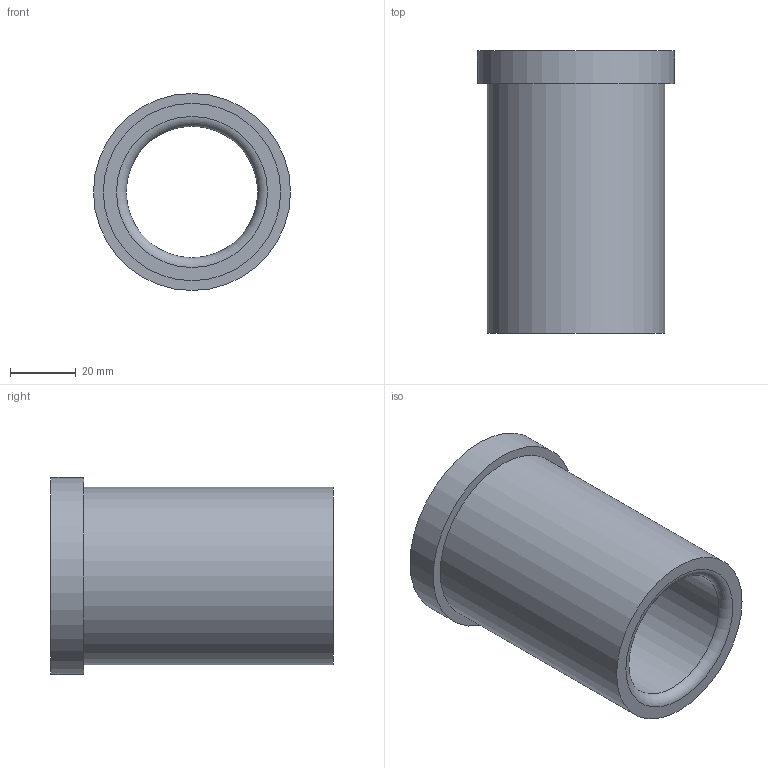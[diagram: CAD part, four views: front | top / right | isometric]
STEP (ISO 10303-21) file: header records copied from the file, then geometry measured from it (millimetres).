
FILE_DESCRIPTION(/* description */ ('STEP AP214'),/* implementation_level */ '2;1');
FILE_NAME(/* name */ '03_12_17862',/* time_stamp */ '2023-06-15T11:35:43+02:00',/* author */ ('License CC BY-ND 4.0'),/* organization */ ('CADENAS'),/* preprocessor_version */ 'ST-DEVELOPER v19.3',/* originating_system */ 'PARTsolutions',/* authorisation */ ' ');
FILE_SCHEMA (('AUTOMOTIVE_DESIGN {1 0 10303 214 3 1 1}'));
Length unit declared in the file: millimetre
Products named in the file (1): VA_Bushing_17862
Bounding box: 60 x 86 x 60 mm (x, y, z)
Volume: 93101.7 mm3; surface area: 28441.1 mm2
Topology: 1 solids, 1 shells, 10 faces, 16 edges, 10 vertices
Faces by surface type: cylinder 4, plane 4, torus 2
Full cylindrical faces by diameter (mm): 40 x1, 40.6 x1, 54 x1, 60 x1
Entity records: 302 total; most frequent: DIRECTION 42, CARTESIAN_POINT 31, AXIS2_PLACEMENT_3D 21, ORIENTED_EDGE 20, EDGE_LOOP 20, FACE_BOUND 20, EDGE_CURVE 10, VERTEX_POINT 10
